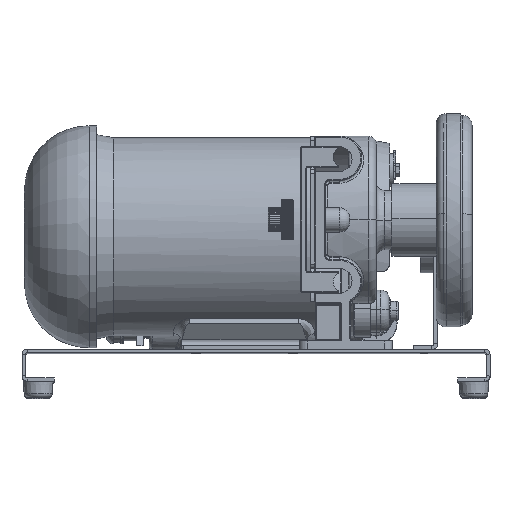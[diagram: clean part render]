
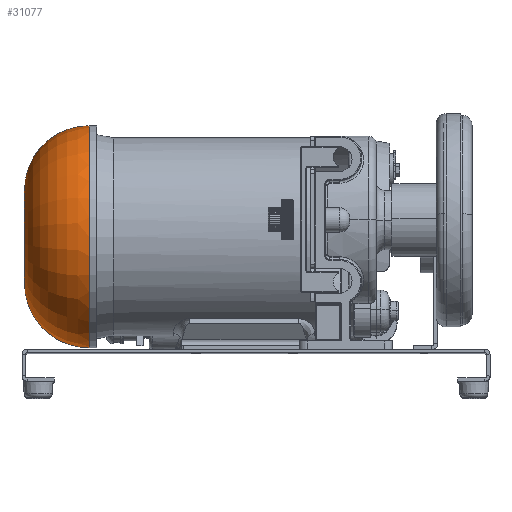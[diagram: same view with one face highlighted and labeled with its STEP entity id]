
A CAD part, top view. The second image highlights one B-rep face of the part: STEP entity #31077.
In plain terms, the highlighted toroidal (fillet/blend) face has major radius 36.576 mm and minor radius 50.8 mm.
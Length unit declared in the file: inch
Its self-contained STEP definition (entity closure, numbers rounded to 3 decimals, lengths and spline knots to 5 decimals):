
#2646 = VERTEX_POINT ( 'NONE', #45992 ) ;
#2649 = VERTEX_POINT ( 'NONE', #45995 ) ;
#2657 = VERTEX_POINT ( 'NONE', #46003 ) ;
#2673 = VERTEX_POINT ( 'NONE', #46019 ) ;
#5505 = EDGE_LOOP ( 'NONE', ( #48925, #48926, #48927, #48928 ) ) ;
#19670 = CIRCLE ( 'NONE', #28893, 2. ) ;
#19682 = CIRCLE ( 'NONE', #28898, 2. ) ;
#19683 = CIRCLE ( 'NONE', #28901, 3.44 ) ;
#19684 = CIRCLE ( 'NONE', #28900, 1.44 ) ;
#20991 = AXIS2_PLACEMENT_3D ( 'NONE', #46696, #46689, #46698 ) ;
#21940 = FACE_OUTER_BOUND ( 'NONE', #5505, .T. ) ;
#21944 = TOROIDAL_SURFACE ( 'NONE', #20991, 1.44, 2. ) ;
#28893 = AXIS2_PLACEMENT_3D ( 'NONE', #31362, #31363, #31365 ) ;
#28898 = AXIS2_PLACEMENT_3D ( 'NONE', #31409, #31411, #31412 ) ;
#28900 = AXIS2_PLACEMENT_3D ( 'NONE', #31427, #31429, #31431 ) ;
#28901 = AXIS2_PLACEMENT_3D ( 'NONE', #31478, #31480, #31482 ) ;
#31077 = ADVANCED_FACE ( 'NONE', ( #21940 ), #21944, .T. ) ;
#31362 = CARTESIAN_POINT ( 'NONE',  ( -1.73489, 8.96278, 3.51799 ) ) ;
#31363 = DIRECTION ( 'NONE',  ( 0., 0., -1. ) ) ;
#31365 = DIRECTION ( 'NONE',  ( -1., 0., 0. ) ) ;
#31409 = CARTESIAN_POINT ( 'NONE',  ( -1.73489, 6.08278, 3.51799 ) ) ;
#31411 = DIRECTION ( 'NONE',  ( 0., 0., 1. ) ) ;
#31412 = DIRECTION ( 'NONE',  ( 0., -1., 0. ) ) ;
#31427 = CARTESIAN_POINT ( 'NONE',  ( -3.73489, 7.52278, 3.51799 ) ) ;
#31429 = DIRECTION ( 'NONE',  ( 1., 0., 0. ) ) ;
#31431 = DIRECTION ( 'NONE',  ( 0., 1., 0. ) ) ;
#31478 = CARTESIAN_POINT ( 'NONE',  ( -1.73489, 7.52278, 3.51799 ) ) ;
#31480 = DIRECTION ( 'NONE',  ( 1., 0., 0. ) ) ;
#31482 = DIRECTION ( 'NONE',  ( 0., 1., 0. ) ) ;
#45589 = EDGE_CURVE ( 'NONE', #2649, #2646, #19670, .T. ) ;
#45597 = EDGE_CURVE ( 'NONE', #2673, #2657, #19682, .T. ) ;
#45599 = EDGE_CURVE ( 'NONE', #2649, #2673, #19684, .T. ) ;
#45604 = EDGE_CURVE ( 'NONE', #2646, #2657, #19683, .T. ) ;
#45992 = CARTESIAN_POINT ( 'NONE',  ( -1.73489, 10.96278, 3.51799 ) ) ;
#45995 = CARTESIAN_POINT ( 'NONE',  ( -3.73489, 8.96278, 3.51799 ) ) ;
#46003 = CARTESIAN_POINT ( 'NONE',  ( -1.73489, 4.08278, 3.51799 ) ) ;
#46019 = CARTESIAN_POINT ( 'NONE',  ( -3.73489, 6.08278, 3.51799 ) ) ;
#46689 = DIRECTION ( 'NONE',  ( 1., 0., 0. ) ) ;
#46696 = CARTESIAN_POINT ( 'NONE',  ( -1.73489, 7.52278, 3.51799 ) ) ;
#46698 = DIRECTION ( 'NONE',  ( 0., 1., 0. ) ) ;
#48925 = ORIENTED_EDGE ( 'NONE', *, *, #45599, .T. ) ;
#48926 = ORIENTED_EDGE ( 'NONE', *, *, #45597, .T. ) ;
#48927 = ORIENTED_EDGE ( 'NONE', *, *, #45604, .F. ) ;
#48928 = ORIENTED_EDGE ( 'NONE', *, *, #45589, .F. ) ;
